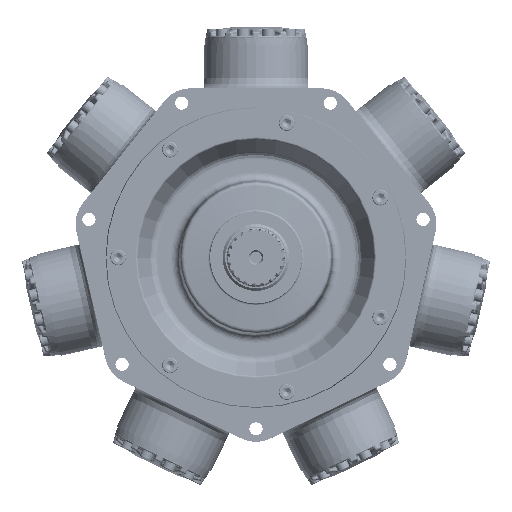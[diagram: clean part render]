
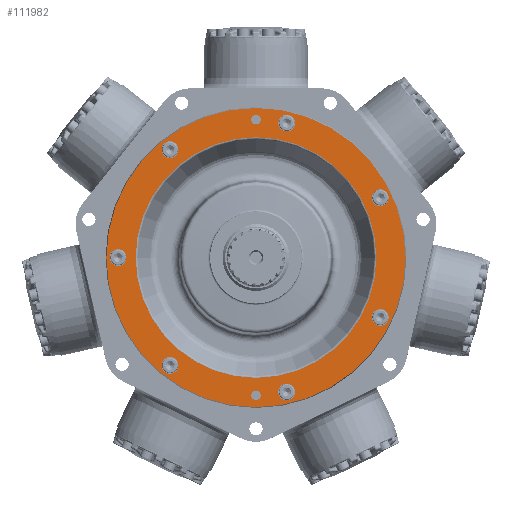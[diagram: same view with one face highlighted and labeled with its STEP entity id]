
A CAD part, top view. The second image highlights one B-rep face of the part: STEP entity #111982.
In plain terms, the highlighted planar face has unit normal (0, 0, 1).
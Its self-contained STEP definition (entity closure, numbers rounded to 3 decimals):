
#10229=FACE_BOUND('',#32763,.T.);
#10230=FACE_BOUND('',#32764,.T.);
#10231=FACE_BOUND('',#32765,.T.);
#10232=FACE_BOUND('',#32766,.T.);
#10233=FACE_BOUND('',#32767,.T.);
#10234=FACE_BOUND('',#32768,.T.);
#10235=FACE_BOUND('',#32769,.T.);
#10236=FACE_BOUND('',#32770,.T.);
#10237=FACE_BOUND('',#32771,.T.);
#10238=FACE_BOUND('',#32772,.T.);
#25686=FACE_OUTER_BOUND('',#32762,.T.);
#32762=EDGE_LOOP('',(#78347));
#32763=EDGE_LOOP('',(#78348));
#32764=EDGE_LOOP('',(#78349));
#32765=EDGE_LOOP('',(#78350));
#32766=EDGE_LOOP('',(#78351));
#32767=EDGE_LOOP('',(#78352));
#32768=EDGE_LOOP('',(#78353));
#32769=EDGE_LOOP('',(#78354));
#32770=EDGE_LOOP('',(#78355));
#32771=EDGE_LOOP('',(#78356));
#32772=EDGE_LOOP('',(#78357));
#38708=CIRCLE('',#119301,182.808);
#38710=CIRCLE('',#119306,227.279);
#38711=CIRCLE('',#119307,7.176);
#38712=CIRCLE('',#119308,7.176);
#38713=CIRCLE('',#119309,12.7);
#38714=CIRCLE('',#119310,12.7);
#38715=CIRCLE('',#119311,12.7);
#38716=CIRCLE('',#119312,12.7);
#38717=CIRCLE('',#119313,12.7);
#38718=CIRCLE('',#119314,12.7);
#38719=CIRCLE('',#119315,12.7);
#44980=VERTEX_POINT('',#177879);
#44982=VERTEX_POINT('',#177888);
#44983=VERTEX_POINT('',#177890);
#44984=VERTEX_POINT('',#177892);
#44985=VERTEX_POINT('',#177894);
#44986=VERTEX_POINT('',#177896);
#44987=VERTEX_POINT('',#177898);
#44988=VERTEX_POINT('',#177900);
#44989=VERTEX_POINT('',#177902);
#44990=VERTEX_POINT('',#177904);
#44991=VERTEX_POINT('',#177906);
#56785=EDGE_CURVE('',#44980,#44980,#38708,.T.);
#56788=EDGE_CURVE('',#44982,#44982,#38710,.T.);
#56789=EDGE_CURVE('',#44983,#44983,#38711,.T.);
#56790=EDGE_CURVE('',#44984,#44984,#38712,.T.);
#56791=EDGE_CURVE('',#44985,#44985,#38713,.T.);
#56792=EDGE_CURVE('',#44986,#44986,#38714,.T.);
#56793=EDGE_CURVE('',#44987,#44987,#38715,.T.);
#56794=EDGE_CURVE('',#44988,#44988,#38716,.T.);
#56795=EDGE_CURVE('',#44989,#44989,#38717,.T.);
#56796=EDGE_CURVE('',#44990,#44990,#38718,.T.);
#56797=EDGE_CURVE('',#44991,#44991,#38719,.T.);
#78347=ORIENTED_EDGE('',*,*,#56788,.F.);
#78348=ORIENTED_EDGE('',*,*,#56789,.T.);
#78349=ORIENTED_EDGE('',*,*,#56790,.T.);
#78350=ORIENTED_EDGE('',*,*,#56791,.T.);
#78351=ORIENTED_EDGE('',*,*,#56792,.T.);
#78352=ORIENTED_EDGE('',*,*,#56793,.T.);
#78353=ORIENTED_EDGE('',*,*,#56794,.T.);
#78354=ORIENTED_EDGE('',*,*,#56795,.T.);
#78355=ORIENTED_EDGE('',*,*,#56796,.T.);
#78356=ORIENTED_EDGE('',*,*,#56797,.T.);
#78357=ORIENTED_EDGE('',*,*,#56785,.F.);
#102036=PLANE('',#119305);
#111982=ADVANCED_FACE('',(#25686,#10229,#10230,#10231,#10232,#10233,#10234,
#10235,#10236,#10237,#10238),#102036,.T.);
#119301=AXIS2_PLACEMENT_3D('',#177881,#132713,#132714);
#119305=AXIS2_PLACEMENT_3D('',#177887,#132722,#132723);
#119306=AXIS2_PLACEMENT_3D('',#177889,#132724,#132725);
#119307=AXIS2_PLACEMENT_3D('',#177891,#132726,#132727);
#119308=AXIS2_PLACEMENT_3D('',#177893,#132728,#132729);
#119309=AXIS2_PLACEMENT_3D('',#177895,#132730,#132731);
#119310=AXIS2_PLACEMENT_3D('',#177897,#132732,#132733);
#119311=AXIS2_PLACEMENT_3D('',#177899,#132734,#132735);
#119312=AXIS2_PLACEMENT_3D('',#177901,#132736,#132737);
#119313=AXIS2_PLACEMENT_3D('',#177903,#132738,#132739);
#119314=AXIS2_PLACEMENT_3D('',#177905,#132740,#132741);
#119315=AXIS2_PLACEMENT_3D('',#177907,#132742,#132743);
#132713=DIRECTION('center_axis',(0.,0.,
1.));
#132714=DIRECTION('ref_axis',(1.,0.,0.));
#132722=DIRECTION('center_axis',(0.,0.,
1.));
#132723=DIRECTION('ref_axis',(0.,1.,0.));
#132724=DIRECTION('center_axis',(0.,0.,
-1.));
#132725=DIRECTION('ref_axis',(0.,1.,0.));
#132726=DIRECTION('center_axis',(0.,0.,
-1.));
#132727=DIRECTION('ref_axis',(1.,0.,0.));
#132728=DIRECTION('center_axis',(0.,0.,
-1.));
#132729=DIRECTION('ref_axis',(1.,0.,0.));
#132730=DIRECTION('center_axis',(0.,0.,
-1.));
#132731=DIRECTION('ref_axis',(-0.623,0.782,0.));
#132732=DIRECTION('center_axis',(0.,0.,
-1.));
#132733=DIRECTION('ref_axis',(0.223,0.975,0.));
#132734=DIRECTION('center_axis',(0.,0.,
-1.));
#132735=DIRECTION('ref_axis',(0.901,0.434,0.));
#132736=DIRECTION('center_axis',(0.,0.,
-1.));
#132737=DIRECTION('ref_axis',(0.901,-0.434,0.));
#132738=DIRECTION('center_axis',(0.,0.,
-1.));
#132739=DIRECTION('ref_axis',(0.223,-0.975,0.));
#132740=DIRECTION('center_axis',(0.,0.,
-1.));
#132741=DIRECTION('ref_axis',(-0.623,-0.782,0.));
#132742=DIRECTION('center_axis',(0.,0.,
-1.));
#132743=DIRECTION('ref_axis',(-1.,0.,0.));
#177879=CARTESIAN_POINT('',(0.,-182.808,123.104));
#177881=CARTESIAN_POINT('Origin',(0.,0.,
123.104));
#177887=CARTESIAN_POINT('Origin',(-206.375,0.,123.104));
#177888=CARTESIAN_POINT('',(0.,-227.279,123.104));
#177889=CARTESIAN_POINT('Origin',(0.,0.,
123.104));
#177890=CARTESIAN_POINT('',(-7.175,209.55,123.104));
#177891=CARTESIAN_POINT('Origin',(0.,209.55,123.104));
#177892=CARTESIAN_POINT('',(-7.176,-209.55,123.104));
#177893=CARTESIAN_POINT('Origin',(0.,-209.55,123.104));
#177894=CARTESIAN_POINT('',(-122.734,153.904,123.104));
#177895=CARTESIAN_POINT('Origin',(-130.652,163.833,123.104));
#177896=CARTESIAN_POINT('',(43.803,191.915,123.104));
#177897=CARTESIAN_POINT('Origin',(46.629,204.296,123.104));
#177898=CARTESIAN_POINT('',(177.356,85.41,123.104));
#177899=CARTESIAN_POINT('Origin',(188.798,90.92,123.104));
#177900=CARTESIAN_POINT('',(177.356,-85.41,123.104));
#177901=CARTESIAN_POINT('Origin',(188.798,-90.92,123.104));
#177902=CARTESIAN_POINT('',(43.803,-191.915,123.104));
#177903=CARTESIAN_POINT('Origin',(46.629,-204.296,123.104));
#177904=CARTESIAN_POINT('',(-122.734,-153.904,123.104));
#177905=CARTESIAN_POINT('Origin',(-130.652,-163.833,123.104));
#177906=CARTESIAN_POINT('',(-196.85,0.,123.104));
#177907=CARTESIAN_POINT('Origin',(-209.55,0.,123.104));
